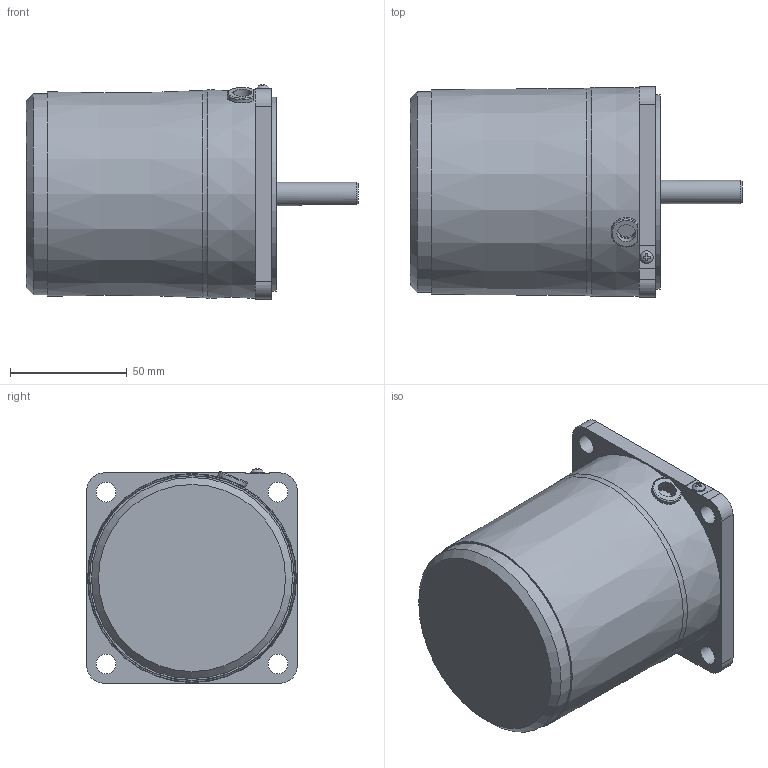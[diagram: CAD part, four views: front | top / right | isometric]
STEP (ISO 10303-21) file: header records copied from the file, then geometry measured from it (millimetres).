
FILE_DESCRIPTION(/* description */ (''),/* implementation_level */ '2;1');
FILE_NAME(/* name */ 'E:\도면작업\2016\0704) 미주향 SG 도면\3D MOTOR\SG9I40K_.stp',/* time_stamp */ '2016-07-22T13:49:08+09:00',/* author */ ('jy-jung'),/* organization */ (''),/* preprocessor_version */ 'ST-DEVELOPER v15.6',/* originating_system */ 'Autodesk Inventor 2015',/* authorisation */ '');
FILE_SCHEMA (('AUTOMOTIVE_DESIGN { 1 0 10303 214 3 1 1 }'));
Length unit declared in the file: millimetre
Products named in the file (1): 부품2
Bounding box: 142 x 90 x 91.76 mm (x, y, z)
Volume: 647575.3 mm3; surface area: 49598 mm2
Topology: 1 solids, 2 shells, 94 faces, 253 edges, 172 vertices
Faces by surface type: plane 59, cylinder 28, cone 4, torus 2, bspline 1
Full cylindrical faces by diameter (mm): 5.6 x1, 8 x1, 8.5 x4, 10 x2, 40 x1, 83 x1, 86 x1
Entity records: 3082 total; most frequent: CARTESIAN_POINT 654, DIRECTION 467, ORIENTED_EDGE 456, EDGE_CURVE 228, AXIS2_PLACEMENT_3D 168, VERTEX_POINT 163, LINE 131, VECTOR 131
